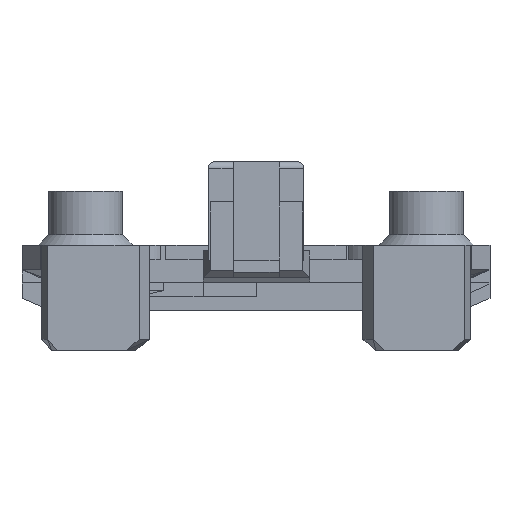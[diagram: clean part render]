
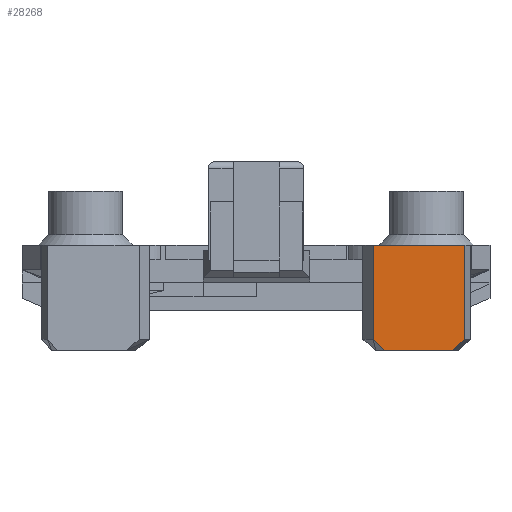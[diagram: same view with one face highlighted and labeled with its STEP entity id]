
A CAD part, left-side view. The second image highlights one B-rep face of the part: STEP entity #28268.
In plain terms, the highlighted planar face has unit normal (-1, 0, 0).
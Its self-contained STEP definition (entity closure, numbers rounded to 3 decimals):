
#426 = PLANE('',#427);
#427 = AXIS2_PLACEMENT_3D('',#428,#429,#430);
#428 = CARTESIAN_POINT('',(-21.573,-3.34,7.4));
#429 = DIRECTION('',(0.,0.,1.));
#430 = DIRECTION('',(1.,0.,-0.));
#27889 = PLANE('',#27890);
#27890 = AXIS2_PLACEMENT_3D('',#27891,#27892,#27893);
#27891 = CARTESIAN_POINT('',(-17.441,-15.119,6.4));
#27892 = DIRECTION('',(-0.355,-0.935,0.));
#27893 = DIRECTION('',(-0.935,0.355,0.));
#28162 = VERTEX_POINT('',#28163);
#28163 = CARTESIAN_POINT('',(-18.527,-13.847,0.));
#28177 = PLANE('',#28178);
#28178 = AXIS2_PLACEMENT_3D('',#28179,#28180,#28181);
#28179 = CARTESIAN_POINT('',(-16.37,-9.793,0.));
#28180 = DIRECTION('',(-0.,-0.,-1.));
#28181 = DIRECTION('',(-1.,0.,0.));
#28204 = PLANE('',#28205);
#28205 = AXIS2_PLACEMENT_3D('',#28206,#28207,#28208);
#28206 = CARTESIAN_POINT('',(-18.135,-14.546,
    0.497));
#28207 = DIRECTION('',(-0.247,-0.65,-0.719)
  );
#28208 = DIRECTION('',(0.,-0.742,
    0.671));
#28221 = VERTEX_POINT('',#28222);
#28222 = CARTESIAN_POINT('',(-18.527,-14.707,
    0.778));
#28243 = EDGE_CURVE('',#28162,#28221,#28244,.T.);
#28244 = SURFACE_CURVE('',#28245,(#28249,#28256),.PCURVE_S1.);
#28245 = LINE('',#28246,#28247);
#28246 = CARTESIAN_POINT('',(-18.527,-13.847,0.));
#28247 = VECTOR('',#28248,1.);
#28248 = DIRECTION('',(0.,-0.742,0.671));
#28249 = PCURVE('',#28204,#28250);
#28250 = DEFINITIONAL_REPRESENTATION('',(#28251),#28255);
#28251 = LINE('',#28252,#28253);
#28252 = CARTESIAN_POINT('',(-0.852,0.404));
#28253 = VECTOR('',#28254,1.);
#28254 = DIRECTION('',(1.,0.));
#28255 = ( GEOMETRIC_REPRESENTATION_CONTEXT(2) 
PARAMETRIC_REPRESENTATION_CONTEXT() REPRESENTATION_CONTEXT('2D SPACE',''
  ) );
#28256 = PCURVE('',#28257,#28262);
#28257 = PLANE('',#28258);
#28258 = AXIS2_PLACEMENT_3D('',#28259,#28260,#28261);
#28259 = CARTESIAN_POINT('',(-18.527,-14.707,6.4));
#28260 = DIRECTION('',(-1.,0.,0.));
#28261 = DIRECTION('',(0.,1.,0.));
#28262 = DEFINITIONAL_REPRESENTATION('',(#28263),#28267);
#28263 = LINE('',#28264,#28265);
#28264 = CARTESIAN_POINT('',(0.86,6.4));
#28265 = VECTOR('',#28266,1.);
#28266 = DIRECTION('',(-0.742,-0.671));
#28267 = ( GEOMETRIC_REPRESENTATION_CONTEXT(2) 
PARAMETRIC_REPRESENTATION_CONTEXT() REPRESENTATION_CONTEXT('2D SPACE',''
  ) );
#28268 = ADVANCED_FACE('',(#28269),#28257,.T.);
#28269 = FACE_BOUND('',#28270,.T.);
#28270 = EDGE_LOOP('',(#28271,#28301,#28329,#28350,#28351,#28374));
#28271 = ORIENTED_EDGE('',*,*,#28272,.T.);
#28272 = EDGE_CURVE('',#28273,#28275,#28277,.T.);
#28273 = VERTEX_POINT('',#28274);
#28274 = CARTESIAN_POINT('',(-18.527,-8.261,7.4));
#28275 = VERTEX_POINT('',#28276);
#28276 = CARTESIAN_POINT('',(-18.527,-8.261,
    0.778));
#28277 = SURFACE_CURVE('',#28278,(#28282,#28289),.PCURVE_S1.);
#28278 = LINE('',#28279,#28280);
#28279 = CARTESIAN_POINT('',(-18.527,-8.261,7.4));
#28280 = VECTOR('',#28281,1.);
#28281 = DIRECTION('',(0.,0.,-1.));
#28282 = PCURVE('',#28257,#28283);
#28283 = DEFINITIONAL_REPRESENTATION('',(#28284),#28288);
#28284 = LINE('',#28285,#28286);
#28285 = CARTESIAN_POINT('',(6.446,-1.));
#28286 = VECTOR('',#28287,1.);
#28287 = DIRECTION('',(0.,1.));
#28288 = ( GEOMETRIC_REPRESENTATION_CONTEXT(2) 
PARAMETRIC_REPRESENTATION_CONTEXT() REPRESENTATION_CONTEXT('2D SPACE',''
  ) );
#28289 = PCURVE('',#28290,#28295);
#28290 = PLANE('',#28291);
#28291 = AXIS2_PLACEMENT_3D('',#28292,#28293,#28294);
#28292 = CARTESIAN_POINT('',(-18.527,-8.261,6.4));
#28293 = DIRECTION('',(-0.56,0.829,0.));
#28294 = DIRECTION('',(0.829,0.56,-0.));
#28295 = DEFINITIONAL_REPRESENTATION('',(#28296),#28300);
#28296 = LINE('',#28297,#28298);
#28297 = CARTESIAN_POINT('',(0.,-1.));
#28298 = VECTOR('',#28299,1.);
#28299 = DIRECTION('',(0.,1.));
#28300 = ( GEOMETRIC_REPRESENTATION_CONTEXT(2) 
PARAMETRIC_REPRESENTATION_CONTEXT() REPRESENTATION_CONTEXT('2D SPACE',''
  ) );
#28301 = ORIENTED_EDGE('',*,*,#28302,.T.);
#28302 = EDGE_CURVE('',#28275,#28303,#28305,.T.);
#28303 = VERTEX_POINT('',#28304);
#28304 = CARTESIAN_POINT('',(-18.527,-9.087,0.));
#28305 = SURFACE_CURVE('',#28306,(#28310,#28317),.PCURVE_S1.);
#28306 = LINE('',#28307,#28308);
#28307 = CARTESIAN_POINT('',(-18.527,-8.261,
    0.778));
#28308 = VECTOR('',#28309,1.);
#28309 = DIRECTION('',(0.,-0.728,-0.686));
#28310 = PCURVE('',#28257,#28311);
#28311 = DEFINITIONAL_REPRESENTATION('',(#28312),#28316);
#28312 = LINE('',#28313,#28314);
#28313 = CARTESIAN_POINT('',(6.446,5.622));
#28314 = VECTOR('',#28315,1.);
#28315 = DIRECTION('',(-0.728,0.686));
#28316 = ( GEOMETRIC_REPRESENTATION_CONTEXT(2) 
PARAMETRIC_REPRESENTATION_CONTEXT() REPRESENTATION_CONTEXT('2D SPACE',''
  ) );
#28317 = PCURVE('',#28318,#28323);
#28318 = PLANE('',#28319);
#28319 = AXIS2_PLACEMENT_3D('',#28320,#28321,#28322);
#28320 = CARTESIAN_POINT('',(-18.148,-8.584,
    0.257));
#28321 = DIRECTION('',(-0.384,0.633,-0.672));
#28322 = DIRECTION('',(0.,-0.728,-0.686
    ));
#28323 = DEFINITIONAL_REPRESENTATION('',(#28324),#28328);
#28324 = LINE('',#28325,#28326);
#28325 = CARTESIAN_POINT('',(-0.592,0.41));
#28326 = VECTOR('',#28327,1.);
#28327 = DIRECTION('',(1.,0.));
#28328 = ( GEOMETRIC_REPRESENTATION_CONTEXT(2) 
PARAMETRIC_REPRESENTATION_CONTEXT() REPRESENTATION_CONTEXT('2D SPACE',''
  ) );
#28329 = ORIENTED_EDGE('',*,*,#28330,.F.);
#28330 = EDGE_CURVE('',#28162,#28303,#28331,.T.);
#28331 = SURFACE_CURVE('',#28332,(#28336,#28343),.PCURVE_S1.);
#28332 = LINE('',#28333,#28334);
#28333 = CARTESIAN_POINT('',(-18.527,-13.847,0.));
#28334 = VECTOR('',#28335,1.);
#28335 = DIRECTION('',(0.,1.,0.));
#28336 = PCURVE('',#28257,#28337);
#28337 = DEFINITIONAL_REPRESENTATION('',(#28338),#28342);
#28338 = LINE('',#28339,#28340);
#28339 = CARTESIAN_POINT('',(0.86,6.4));
#28340 = VECTOR('',#28341,1.);
#28341 = DIRECTION('',(1.,0.));
#28342 = ( GEOMETRIC_REPRESENTATION_CONTEXT(2) 
PARAMETRIC_REPRESENTATION_CONTEXT() REPRESENTATION_CONTEXT('2D SPACE',''
  ) );
#28343 = PCURVE('',#28177,#28344);
#28344 = DEFINITIONAL_REPRESENTATION('',(#28345),#28349);
#28345 = LINE('',#28346,#28347);
#28346 = CARTESIAN_POINT('',(2.157,-4.054));
#28347 = VECTOR('',#28348,1.);
#28348 = DIRECTION('',(0.,1.));
#28349 = ( GEOMETRIC_REPRESENTATION_CONTEXT(2) 
PARAMETRIC_REPRESENTATION_CONTEXT() REPRESENTATION_CONTEXT('2D SPACE',''
  ) );
#28350 = ORIENTED_EDGE('',*,*,#28243,.T.);
#28351 = ORIENTED_EDGE('',*,*,#28352,.F.);
#28352 = EDGE_CURVE('',#28353,#28221,#28355,.T.);
#28353 = VERTEX_POINT('',#28354);
#28354 = CARTESIAN_POINT('',(-18.527,-14.707,7.4));
#28355 = SURFACE_CURVE('',#28356,(#28360,#28367),.PCURVE_S1.);
#28356 = LINE('',#28357,#28358);
#28357 = CARTESIAN_POINT('',(-18.527,-14.707,7.4));
#28358 = VECTOR('',#28359,1.);
#28359 = DIRECTION('',(0.,0.,-1.));
#28360 = PCURVE('',#28257,#28361);
#28361 = DEFINITIONAL_REPRESENTATION('',(#28362),#28366);
#28362 = LINE('',#28363,#28364);
#28363 = CARTESIAN_POINT('',(0.,-1.));
#28364 = VECTOR('',#28365,1.);
#28365 = DIRECTION('',(0.,1.));
#28366 = ( GEOMETRIC_REPRESENTATION_CONTEXT(2) 
PARAMETRIC_REPRESENTATION_CONTEXT() REPRESENTATION_CONTEXT('2D SPACE',''
  ) );
#28367 = PCURVE('',#27889,#28368);
#28368 = DEFINITIONAL_REPRESENTATION('',(#28369),#28373);
#28369 = LINE('',#28370,#28371);
#28370 = CARTESIAN_POINT('',(1.162,-1.));
#28371 = VECTOR('',#28372,1.);
#28372 = DIRECTION('',(0.,1.));
#28373 = ( GEOMETRIC_REPRESENTATION_CONTEXT(2) 
PARAMETRIC_REPRESENTATION_CONTEXT() REPRESENTATION_CONTEXT('2D SPACE',''
  ) );
#28374 = ORIENTED_EDGE('',*,*,#28375,.T.);
#28375 = EDGE_CURVE('',#28353,#28273,#28376,.T.);
#28376 = SURFACE_CURVE('',#28377,(#28381,#28388),.PCURVE_S1.);
#28377 = LINE('',#28378,#28379);
#28378 = CARTESIAN_POINT('',(-18.527,-19.765,7.4));
#28379 = VECTOR('',#28380,1.);
#28380 = DIRECTION('',(0.,1.,0.));
#28381 = PCURVE('',#28257,#28382);
#28382 = DEFINITIONAL_REPRESENTATION('',(#28383),#28387);
#28383 = LINE('',#28384,#28385);
#28384 = CARTESIAN_POINT('',(-5.058,-1.));
#28385 = VECTOR('',#28386,1.);
#28386 = DIRECTION('',(1.,0.));
#28387 = ( GEOMETRIC_REPRESENTATION_CONTEXT(2) 
PARAMETRIC_REPRESENTATION_CONTEXT() REPRESENTATION_CONTEXT('2D SPACE',''
  ) );
#28388 = PCURVE('',#426,#28389);
#28389 = DEFINITIONAL_REPRESENTATION('',(#28390),#28394);
#28390 = LINE('',#28391,#28392);
#28391 = CARTESIAN_POINT('',(3.046,-16.425));
#28392 = VECTOR('',#28393,1.);
#28393 = DIRECTION('',(0.,1.));
#28394 = ( GEOMETRIC_REPRESENTATION_CONTEXT(2) 
PARAMETRIC_REPRESENTATION_CONTEXT() REPRESENTATION_CONTEXT('2D SPACE',''
  ) );
